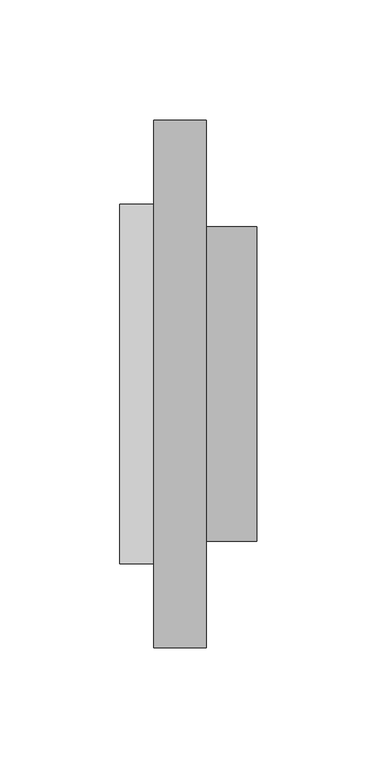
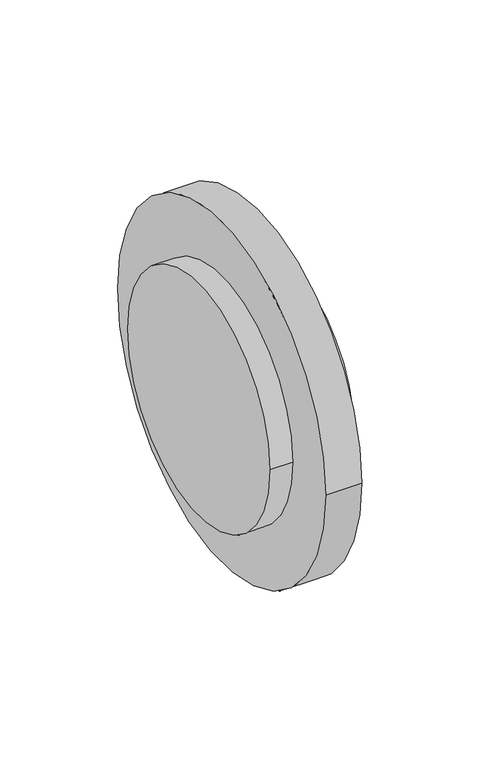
"""IFC4 building model written with IfcOpenShell, lengths in millimetres: pipe fitting geometry, NIRON RED termofusion casquillo con brida : Estándar."""

from ifc_helpers import new_model, si_unit, point, frame, origin, origin_2d, place, context, project, spatial, circle_curve, trimmed, segment, composite_curve, outline, extrude, source, transform, mapped, element, save


def pipe_fitting_a6176da3(model_context):
    return source(origin(), model_context, "Body", "SweptSolid", [
        extrude(outline(composite_curve([segment(trimmed(circle_curve(origin_2d(), 65.5), [point((65.5, 0.0))], [point((-65.5, 0.0))], False, "CARTESIAN"), True, "CONTINUOUS"), segment(trimmed(circle_curve(origin_2d(), 65.5), [point((-65.5, 0.0))], [point((65.5, 0.0))], False, "CARTESIAN"), True, "CONTINUOUS")], self_intersect=False)), frame((14.0, 0.0, 0.0), z_axis=(1.0, 0.0, 0.0), x_axis=(0.0, 1.0, 0.0)), (0.0, 0.0, 1.0), 43.0),
        extrude(outline(composite_curve([segment(trimmed(circle_curve(origin_2d(), 75.0), [point((-75.0, 0.0))], [point((75.0, 0.0))], False, "CARTESIAN"), True, "CONTINUOUS"), segment(trimmed(circle_curve(origin_2d(), 75.0), [point((75.0, 0.0))], [point((-75.0, 0.0))], False, "CARTESIAN"), True, "CONTINUOUS")], self_intersect=False)), frame((0.0, 0.0, 0.0), z_axis=(1.0, 0.0, 0.0), x_axis=(0.0, 1.0, 0.0)), (0.0, 0.0, 1.0), 14.0),
        extrude(outline(composite_curve([segment(trimmed(circle_curve(origin_2d(), 110.0), [point((110.0, 0.0))], [point((-110.0, 0.0))], False, "CARTESIAN"), True, "CONTINUOUS"), segment(trimmed(circle_curve(origin_2d(), 110.0), [point((-110.0, 0.0))], [point((110.0, 0.0))], False, "CARTESIAN"), True, "CONTINUOUS")], self_intersect=False), holes=[composite_curve([segment(trimmed(circle_curve(origin_2d(), 66.5), [point((66.5, 0.0))], [point((-66.5, 0.0))], True, "CARTESIAN"), True, "CONTINUOUS"), segment(trimmed(circle_curve(origin_2d(), 66.5), [point((-66.5, 0.0))], [point((66.5, 0.0))], True, "CARTESIAN"), True, "CONTINUOUS")], self_intersect=False)]), frame((14.0, 0.0, 0.0), z_axis=(1.0, 0.0, 0.0), x_axis=(0.0, 1.0, 0.0)), (0.0, 0.0, 1.0), 22.0),
    ])


if __name__ == "__main__":
    model = new_model("IFC4")
    model_context = context("Model", 3, world=origin())
    ifc_project = project(units=[si_unit("LENGTHUNIT", "METRE", prefix="MILLI")], contexts=[model_context])
    site = spatial("IfcSite", under=ifc_project)
    building = spatial("IfcBuilding", under=site)
    placement = place(None, origin())
    pipe_fitting_shape = pipe_fitting_a6176da3(model_context)
    element("IfcPipeFitting", 1, ObjectType="NIRON RED termofusion casquillo con brida : Estándar", at=placement, inside=building, context=model_context, shape_type="MappedRepresentation", body=[
        mapped(pipe_fitting_shape, transform((0.0, 0.0, 0.0), x_axis=(1.0, 0.0, 0.0), y_axis=(0.0, 1.0, 0.0), z_axis=(0.0, 0.0, 1.0))),
    ])
    save(model, "model.ifc")
